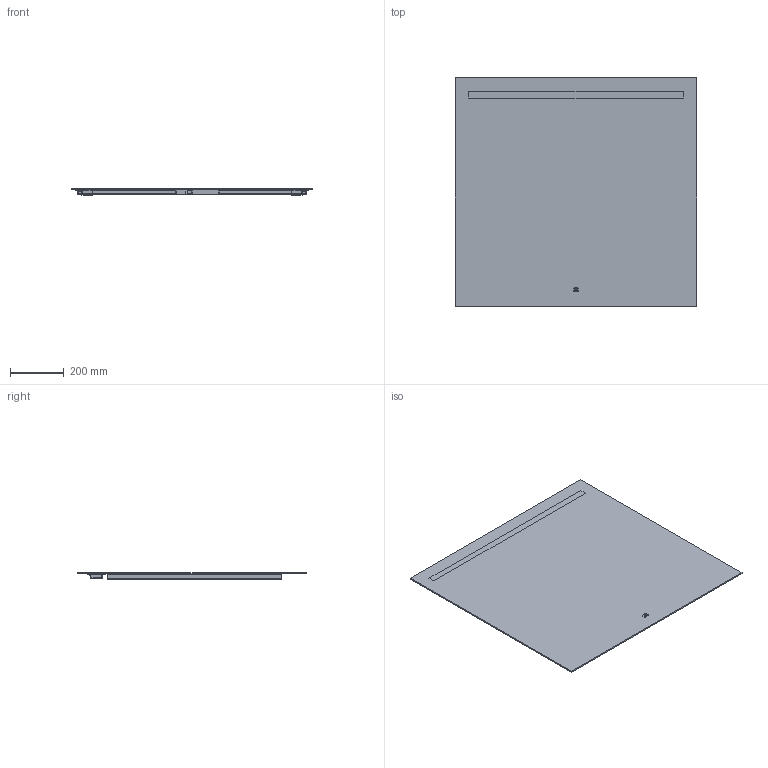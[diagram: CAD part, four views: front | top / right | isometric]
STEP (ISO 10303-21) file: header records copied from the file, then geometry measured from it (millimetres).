
FILE_DESCRIPTION (( 'STEP AP203' ), '1' );
FILE_NAME ('2000658 Kristalspiegel Mono 900x850 horizontal.STEP', '2021-01-22T09:15:08', ( '' ), ( '' ), 'SwSTEP 2.0', 'SolidWorks 2018', '' );
FILE_SCHEMA (( 'CONFIG_CONTROL_DESIGN' ));
Length unit declared in the file: millimetre
Products named in the file (7): 2000658 Kristalspiegel Mono 900x850 horizontal; Neues_Kunststoffprofil; Trafo_15W; IP44-Box; Rechteckprofil; Endkappe_mit_Kabelauslass; Spiegel_horizontale_Beleuchtung
Assembly tree (8 placements, depth 2):
  2000658 Kristalspiegel Mono 900x850 horizontal
    Spiegel_horizontale_Beleuchtung
    Neues_Kunststoffprofil
    Endkappe_mit_Kabelauslass  x2
    Rechteckprofil  x2
    IP44-Box
    Trafo_15W
Bounding box: 900 x 850 x 25 mm (x, y, z)
Volume: 4494265.4 mm3; surface area: 2063700.2 mm2
Topology: 8 solids, 8 shells, 312 faces, 824 edges, 520 vertices
Faces by surface type: plane 146, cylinder 120, torus 24, bspline 20, sphere 2
Entity records: 7101 total; most frequent: CARTESIAN_POINT 1438, DIRECTION 1031, ORIENTED_EDGE 1028, EDGE_CURVE 514, AXIS2_PLACEMENT_3D 355, VERTEX_POINT 342, LINE 321, VECTOR 321
